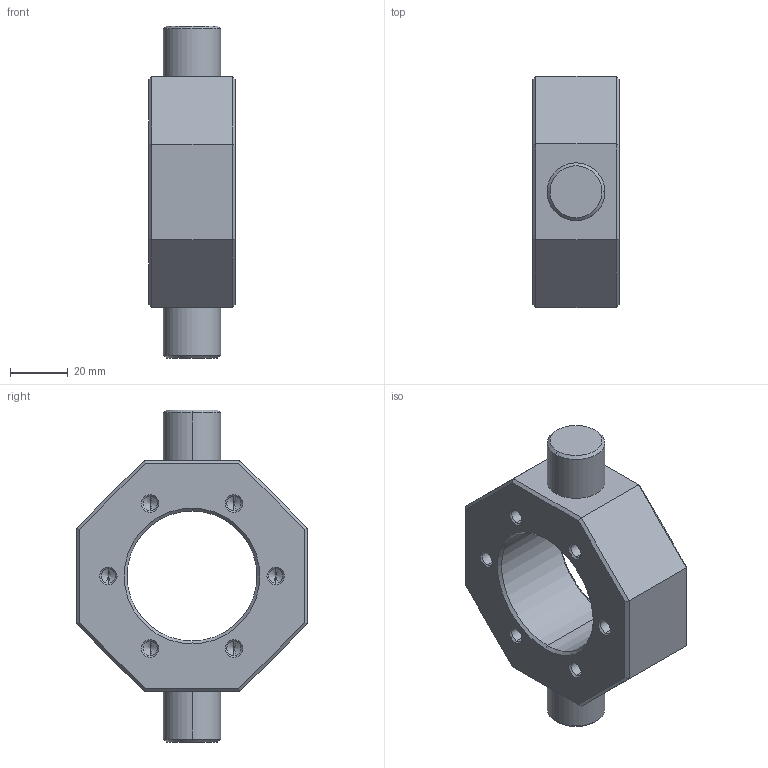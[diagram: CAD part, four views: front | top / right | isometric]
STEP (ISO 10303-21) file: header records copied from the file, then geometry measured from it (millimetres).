
FILE_DESCRIPTION (( 'STEP AP214' ), '1' );
FILE_NAME ('LB-KA-45.STEP', '2025-04-08T08:26:29', ( '' ), ( '' ), 'SwSTEP 2.0', 'SolidWorks 2023', '' );
FILE_SCHEMA (( 'AUTOMOTIVE_DESIGN' ));
Length unit declared in the file: millimetre
Products named in the file (1): LB-KA-45
Bounding box: 30 x 80 x 115 mm (x, y, z)
Volume: 235448.7 mm3; surface area: 48907.6 mm2
Topology: 2 solids, 2 shells, 228 faces, 516 edges, 272 vertices
Faces by surface type: cone 112, cylinder 60, plane 56
Entity records: 5936 total; most frequent: DIRECTION 1110, CARTESIAN_POINT 969, ORIENTED_EDGE 936, EDGE_CURVE 468, AXIS2_PLACEMENT_3D 413, LINE 284, VECTOR 284, VERTEX_POINT 272
